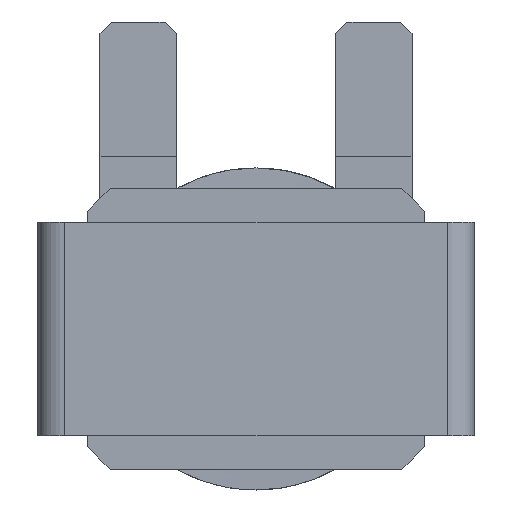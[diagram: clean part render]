
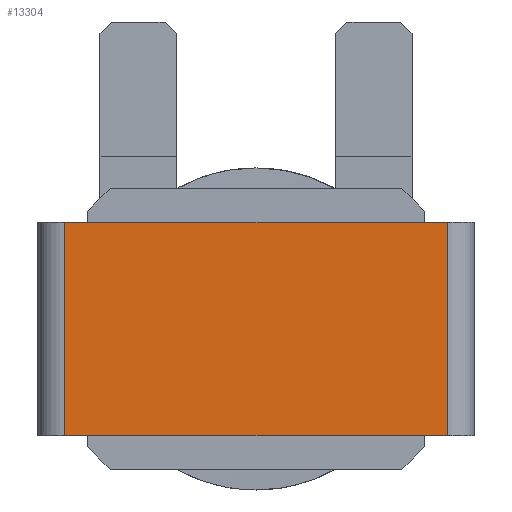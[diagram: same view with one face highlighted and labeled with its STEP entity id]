
A CAD part, front view. The second image highlights one B-rep face of the part: STEP entity #13304.
In plain terms, the highlighted planar face has unit normal (0, -1, 0).
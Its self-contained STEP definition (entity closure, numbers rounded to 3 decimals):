
#837 = CARTESIAN_POINT ( 'NONE',  ( -17.05, 83.242, -9.525 ) ) ;
#1420 = CARTESIAN_POINT ( 'NONE',  ( -17.05, 83.242, -9.525 ) ) ;
#1522 = VERTEX_POINT ( 'NONE', #837 ) ;
#3379 = CARTESIAN_POINT ( 'NONE',  ( -17.05, 83.242, 9.525 ) ) ;
#4047 = VERTEX_POINT ( 'NONE', #6895 ) ;
#4295 = FACE_OUTER_BOUND ( 'NONE', #17430, .T. ) ;
#4327 = DIRECTION ( 'NONE',  ( 0., 0., -1. ) ) ;
#4925 = ORIENTED_EDGE ( 'NONE', *, *, #18198, .T. ) ;
#5734 = EDGE_CURVE ( 'NONE', #1522, #4047, #11741, .T. ) ;
#6206 = ORIENTED_EDGE ( 'NONE', *, *, #5734, .T. ) ;
#6895 = CARTESIAN_POINT ( 'NONE',  ( 17.05, 83.242, -9.525 ) ) ;
#6969 = VERTEX_POINT ( 'NONE', #17942 ) ;
#7084 = DIRECTION ( 'NONE',  ( 1., 0., 0. ) ) ;
#7101 = CARTESIAN_POINT ( 'NONE',  ( 17.05, 83.242, 9.525 ) ) ;
#7453 = CARTESIAN_POINT ( 'NONE',  ( -17.05, 83.242, 9.525 ) ) ;
#7820 = DIRECTION ( 'NONE',  ( 0., 1., 0. ) ) ;
#9197 = VECTOR ( 'NONE', #14717, 1000. ) ;
#9891 = LINE ( 'NONE', #17448, #9197 ) ;
#10280 = AXIS2_PLACEMENT_3D ( 'NONE', #3379, #7820, #13605 ) ;
#11741 = LINE ( 'NONE', #1420, #18853 ) ;
#11867 = VECTOR ( 'NONE', #17822, 1000. ) ;
#12108 = PLANE ( 'NONE',  #10280 ) ;
#12479 = ORIENTED_EDGE ( 'NONE', *, *, #15906, .F. ) ;
#12558 = LINE ( 'NONE', #14283, #17113 ) ;
#13266 = LINE ( 'NONE', #7453, #11867 ) ;
#13304 = ADVANCED_FACE ( 'NONE', ( #4295 ), #12108, .F. ) ;
#13605 = DIRECTION ( 'NONE',  ( 0., 0., 1. ) ) ;
#14283 = CARTESIAN_POINT ( 'NONE',  ( -17.05, 83.242, 9.525 ) ) ;
#14717 = DIRECTION ( 'NONE',  ( 0., 0., -1. ) ) ;
#15906 = EDGE_CURVE ( 'NONE', #18277, #4047, #9891, .T. ) ;
#17113 = VECTOR ( 'NONE', #4327, 1000. ) ;
#17430 = EDGE_LOOP ( 'NONE', ( #6206, #12479, #17616, #4925 ) ) ;
#17448 = CARTESIAN_POINT ( 'NONE',  ( 17.05, 83.242, 9.525 ) ) ;
#17616 = ORIENTED_EDGE ( 'NONE', *, *, #17890, .F. ) ;
#17822 = DIRECTION ( 'NONE',  ( 1., 0., 0. ) ) ;
#17890 = EDGE_CURVE ( 'NONE', #6969, #18277, #13266, .T. ) ;
#17942 = CARTESIAN_POINT ( 'NONE',  ( -17.05, 83.242, 9.525 ) ) ;
#18198 = EDGE_CURVE ( 'NONE', #6969, #1522, #12558, .T. ) ;
#18277 = VERTEX_POINT ( 'NONE', #7101 ) ;
#18853 = VECTOR ( 'NONE', #7084, 1000. ) ;
